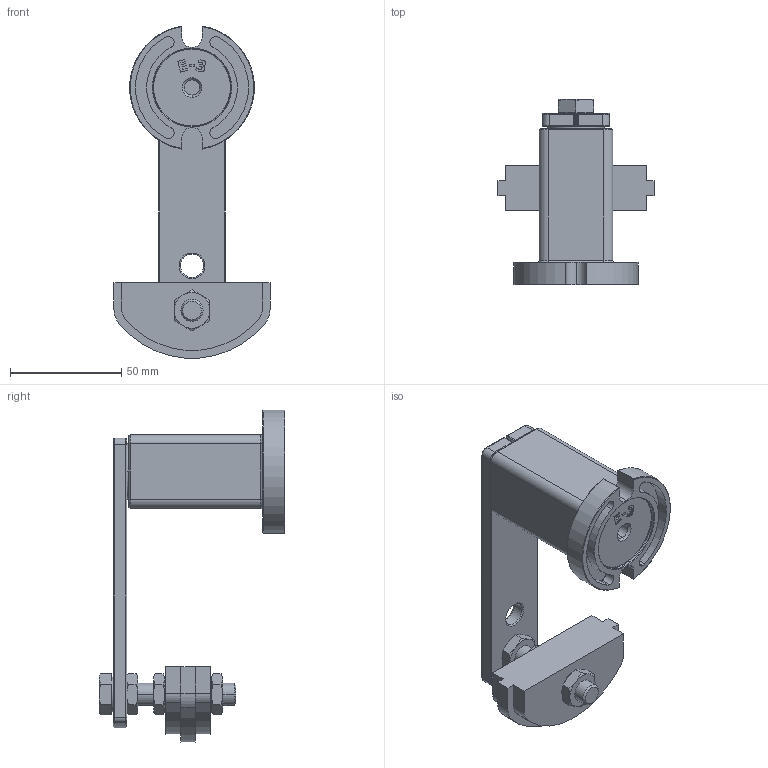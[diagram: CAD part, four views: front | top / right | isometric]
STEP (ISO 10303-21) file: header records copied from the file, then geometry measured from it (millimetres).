
FILE_DESCRIPTION (( 'STEP AP203' ), '1' );
FILE_NAME ('EGE3 - 1-2S cod. 94071211.STEP', '2017-08-25T10:30:11', ( '' ), ( '' ), 'SwSTEP 2.0', 'SolidWorks 2016', '' );
FILE_SCHEMA (( 'CONFIG_CONTROL_DESIGN' ));
Length unit declared in the file: millimetre
Products named in the file (9): E3_009_step; E3 cod. 94070003; ISO - 4035 - M10 - N_ISO - 4035 - M10 - N; GE-P ISO 08B-1; ISO 4017 - M10 x 55-C_ISO 4017 - M10 x 55-C; Leva E3_step; DS 10-15-20; GE 1-2S M10 cod. 94091201; EGE3 - 1-2S cod. 94071211
Assembly tree (10 placements, depth 3):
  EGE3 - 1-2S cod. 94071211
    E3 cod. 94070003
      Leva E3_step
      E3_009_step
    GE 1-2S M10 cod. 94091201
      GE-P ISO 08B-1
      DS 10-15-20
      ISO 4017 - M10 x 55-C_ISO 4017 - M10 x 55-C
      ISO - 4035 - M10 - N_ISO - 4035 - M10 - N  x3
Bounding box: 70 x 83.4 x 148.96 mm (x, y, z)
Volume: 121620.1 mm3; surface area: 52465.5 mm2
Topology: 8 solids, 8 shells, 334 faces, 783 edges, 472 vertices
Faces by surface type: plane 120, cylinder 90, cone 72, torus 28, bspline 20, sphere 4
Entity records: 9784 total; most frequent: CARTESIAN_POINT 2384, DIRECTION 1363, ORIENTED_EDGE 1318, EDGE_CURVE 659, AXIS2_PLACEMENT_3D 523, VERTEX_POINT 404, LINE 317, VECTOR 317
